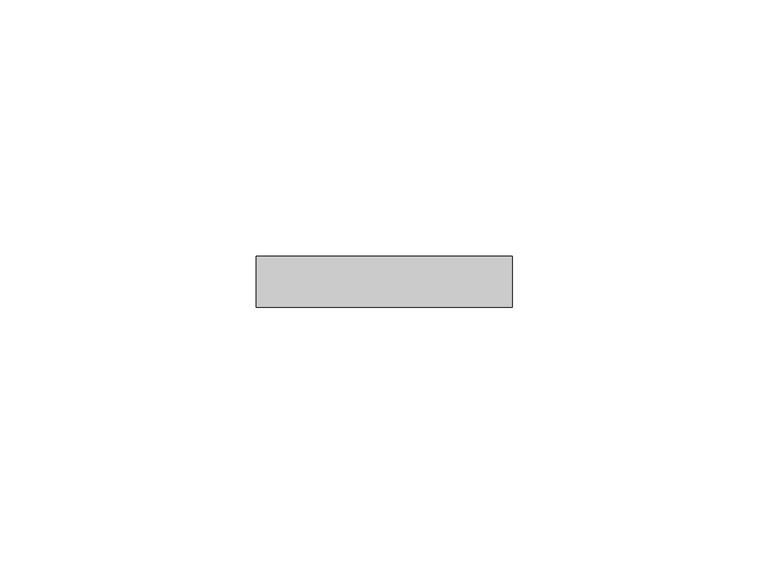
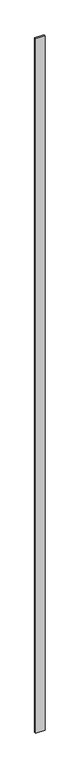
"""IFC4 building model written with IfcOpenShell, lengths in millimetres: plate geometry, システム パネル : 標準."""

from ifc_helpers import new_model, si_unit, origin, origin_with_axes, place, context, project, spatial, polyline, outline, extrude, source, transform, mapped, element, save


def plate_ab860a3c(model_context):
    return source(origin(), model_context, "Body", "SweptSolid", [
        extrude(outline(polyline([(25.0, -5.0), (-25.0, -5.0), (-25.0, 5.0), (25.0, 5.0), (25.0, -5.0)])), origin_with_axes(), (0.0, 0.0, 1.0), 4000.0),
    ])


if __name__ == "__main__":
    model = new_model("IFC4")
    model_context = context("Model", 3, world=origin())
    ifc_project = project(units=[si_unit("LENGTHUNIT", "METRE", prefix="MILLI")], contexts=[model_context])
    site = spatial("IfcSite", under=ifc_project)
    building = spatial("IfcBuilding", under=site)
    placement = place(None, origin())
    plate_shape = plate_ab860a3c(model_context)
    element("IfcPlate", 1, ObjectType="システム パネル : 標準", at=placement, inside=building, context=model_context, shape_type="MappedRepresentation", body=[
        mapped(plate_shape, transform((0.0, 0.0, 0.0), x_axis=(1.0, 0.0, 0.0), y_axis=(0.0, 1.0, 0.0), z_axis=(0.0, 0.0, 1.0))),
    ])
    save(model, "model.ifc")
